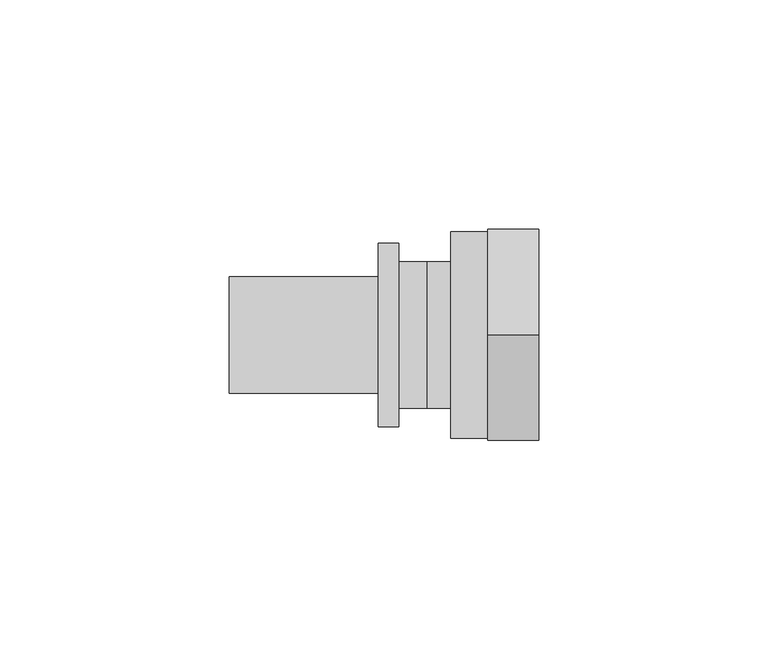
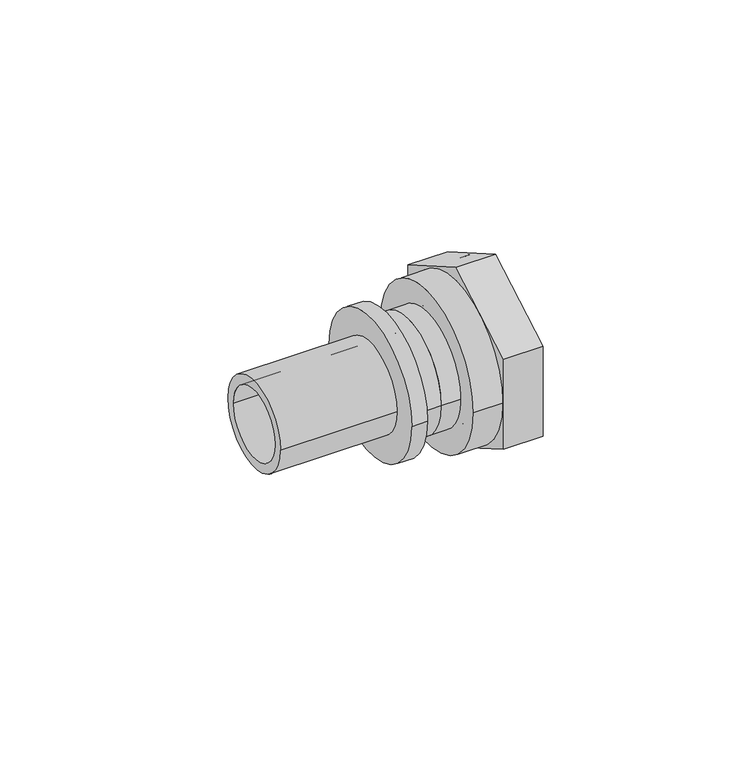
"""IFC4 building model written with IfcOpenShell, lengths in millimetres: pipe fitting geometry, REHAU_RAUTITAN_Adaptor_RX+_union nut : REHAU_RAUTITAN_Adaptor_RX+_union nut."""

from ifc_helpers import new_model, si_unit, point, frame, origin, origin_2d, place, context, project, spatial, polyline, circle_curve, trimmed, segment, composite_curve, outline, extrude, source, transform, mapped, element, save
from ifc_brep_helpers import plane_surface, cylinder_surface, revolved_surface, advanced_brep


def pipe_fitting_fe676349(model_context):
    return source(origin(), model_context, "Body", "SolidModel", [
        advanced_brep(
        [(0.0, 16.0, 0.0), (0.0, -16.0, 0.0), (-6.1, -16.0, 0.0), (-6.1, 16.0, 0.0), (-43.0, 10.0, 0.0), (-43.0, -10.0, 0.0), (0.0, -10.0, 0.0), (0.0, 10.0, 0.0), (-10.5, 12.725, 0.0), (-10.5, -12.725, 0.0), (-43.0, -12.725, 0.0), (-43.0, 12.725, 0.0), (-6.1, 20.0, 0.0), (-6.1, -20.0, 0.0), (-10.5, -20.0, 0.0), (-10.5, 20.0, 0.0)],
        [
            (0, 1, circle_curve(frame((0.0, 0.0, 0.0), z_axis=(-1.0, 0.0, 0.0), x_axis=(0.0, -1.0, 0.0)), 16.0)),
            (1, 2),
            (2, 3, circle_curve(frame((-6.1, 0.0, 0.0), z_axis=(1.0, 0.0, 0.0), x_axis=(0.0, -1.0, 0.0)), 16.0)),
            (3, 0),
            (4, 5, circle_curve(frame((-43.0, 0.0, 0.0), z_axis=(-1.0, 0.0, 0.0), x_axis=(0.0, -1.0, 0.0)), 10.0)),
            (5, 6),
            (6, 7, circle_curve(frame((0.0, 0.0, 0.0), z_axis=(1.0, 0.0, 0.0), x_axis=(0.0, -1.0, 0.0)), 10.0)),
            (7, 4),
            (8, 9, circle_curve(frame((-10.5, 0.0, 0.0), z_axis=(-1.0, 0.0, 0.0), x_axis=(0.0, -1.0, 0.0)), 12.725)),
            (9, 10),
            (10, 11, circle_curve(frame((-43.0, 0.0, 0.0), z_axis=(1.0, 0.0, 0.0), x_axis=(0.0, -1.0, 0.0)), 12.725)),
            (11, 8),
            (12, 13, circle_curve(frame((-6.1, 0.0, 0.0), z_axis=(-1.0, 0.0, 0.0), x_axis=(0.0, -1.0, 0.0)), 20.0)),
            (13, 14),
            (14, 15, circle_curve(frame((-10.5, 0.0, 0.0), z_axis=(1.0, 0.0, 0.0), x_axis=(0.0, -1.0, 0.0)), 20.0)),
            (15, 12),
            (1, 0, circle_curve(frame((0.0, 0.0, 0.0), z_axis=(-1.0, 0.0, 0.0), x_axis=(0.0, 1.0, 0.0)), 16.0)),
            (3, 2, circle_curve(frame((-6.1, 0.0, 0.0), z_axis=(1.0, 0.0, 0.0), x_axis=(0.0, 1.0, 0.0)), 16.0)),
            (6, 7, circle_curve(frame((0.0, 0.0, 0.0), z_axis=(-1.0, 0.0, 0.0), x_axis=(0.0, 1.0, 0.0)), 10.0)),
            (5, 4, circle_curve(frame((-43.0, 0.0, 0.0), z_axis=(-1.0, 0.0, 0.0), x_axis=(0.0, 1.0, 0.0)), 10.0)),
            (10, 11, circle_curve(frame((-43.0, 0.0, 0.0), z_axis=(-1.0, 0.0, 0.0), x_axis=(0.0, 1.0, 0.0)), 12.725)),
            (9, 8, circle_curve(frame((-10.5, 0.0, 0.0), z_axis=(-1.0, 0.0, 0.0), x_axis=(0.0, 1.0, 0.0)), 12.725)),
            (14, 15, circle_curve(frame((-10.5, 0.0, 0.0), z_axis=(-1.0, 0.0, 0.0), x_axis=(0.0, 1.0, 0.0)), 20.0)),
            (13, 12, circle_curve(frame((-6.1, 0.0, 0.0), z_axis=(-1.0, 0.0, 0.0), x_axis=(0.0, 1.0, 0.0)), 20.0)),
        ],
        [
            cylinder_surface(frame((0.0, 0.0, 0.0), z_axis=(1.0, 0.0, 0.0), x_axis=(0.0, -1.0, 0.0)), 16.0),
            revolved_surface(polyline([(0.0, -10.0, 0.0), (-43.0, -10.0, 0.0)]), (0.0, 0.0, 0.0), (1.0, 0.0, 0.0)),
            cylinder_surface(frame((0.0, 0.0, 0.0), z_axis=(1.0, 0.0, 0.0), x_axis=(0.0, -1.0, 0.0)), 12.725),
            cylinder_surface(frame((0.0, 0.0, 0.0), z_axis=(1.0, 0.0, 0.0), x_axis=(0.0, -1.0, 0.0)), 20.0),
            cylinder_surface(frame((0.0, 0.0, 0.0), z_axis=(1.0, 0.0, 0.0), x_axis=(0.0, 1.0, 0.0)), 16.0),
            plane_surface(frame((0.0, 0.0, 0.0), z_axis=(1.0, 0.0, 0.0), x_axis=(0.0, 1.0, 0.0))),
            revolved_surface(polyline([(0.0, 10.0, 0.0), (-43.0, 10.0, 0.0)]), (0.0, 0.0, 0.0), (1.0, 0.0, 0.0)),
            plane_surface(frame((-43.0, 0.0, 0.0), z_axis=(-1.0, 0.0, 0.0), x_axis=(0.0, 1.0, 0.0))),
            cylinder_surface(frame((0.0, 0.0, 0.0), z_axis=(1.0, 0.0, 0.0), x_axis=(0.0, 1.0, 0.0)), 12.725),
            plane_surface(frame((-10.5, 0.0, 0.0), z_axis=(-1.0, 0.0, 0.0), x_axis=(0.0, 1.0, 0.0))),
            cylinder_surface(frame((0.0, 0.0, 0.0), z_axis=(1.0, 0.0, 0.0), x_axis=(0.0, 1.0, 0.0)), 20.0),
            plane_surface(frame((-6.1, 0.0, 0.0), z_axis=(1.0, 0.0, 0.0), x_axis=(0.0, 1.0, 0.0))),
        ],
        [
            (0, [[1, 2, 3, 4]]),
            (1, [[5, 6, 7, 8]]),
            (2, [[9, 10, 11, 12]]),
            (3, [[13, 14, 15, 16]]),
            (4, [[17, -4, 18, -2]]),
            (5, [[-17, -1], [19, -7]]),
            (6, [[20, -8, -19, -6]]),
            (7, [[21, -11], [-20, -5]]),
            (8, [[22, -12, -21, -10]]),
            (9, [[23, -15], [-22, -9]]),
            (10, [[24, -16, -23, -14]]),
            (11, [[-24, -13], [-18, -3]]),
        ],
    ),
        advanced_brep(
        [(9.0, 16.0, 0.0), (9.0, -16.0, 0.0), (0.0, -16.0, 0.0), (0.0, 16.0, 0.0), (12.0, 18.0, 0.0), (12.0, -18.0, 0.0), (9.0, -18.0, 0.0), (9.0, 18.0, 0.0), (1.4730817, 10.0, 0.0), (1.4730817, -10.0, 0.0), (12.0, -10.0, 0.0), (12.0, 10.0, 0.0), (0.0, 7.8264556, 0.0), (0.0, -7.8264556, 0.0), (1.4730817, -7.8264556, 0.0), (1.4730817, 7.8264556, 0.0)],
        [
            (0, 1, circle_curve(frame((9.0, 0.0, 0.0), z_axis=(-1.0, 0.0, 0.0), x_axis=(0.0, -1.0, 0.0)), 16.0)),
            (1, 2),
            (2, 3, circle_curve(frame((0.0, 0.0, 0.0), z_axis=(1.0, 0.0, 0.0), x_axis=(0.0, -1.0, 0.0)), 16.0)),
            (3, 0),
            (4, 5, circle_curve(frame((12.0, 0.0, 0.0), z_axis=(-1.0, 0.0, 0.0), x_axis=(0.0, -1.0, 0.0)), 18.0)),
            (5, 6),
            (6, 7, circle_curve(frame((9.0, 0.0, 0.0), z_axis=(1.0, 0.0, 0.0), x_axis=(0.0, -1.0, 0.0)), 18.0)),
            (7, 4),
            (8, 9, circle_curve(frame((1.4730817, 0.0, 0.0), z_axis=(-1.0, 0.0, 0.0), x_axis=(0.0, -1.0, 0.0)), 10.0)),
            (9, 10),
            (10, 11, circle_curve(frame((12.0, 0.0, 0.0), z_axis=(1.0, 0.0, 0.0), x_axis=(0.0, -1.0, 0.0)), 10.0)),
            (11, 8),
            (2, 3, circle_curve(frame((0.0, 0.0, 0.0), z_axis=(-1.0, 0.0, 0.0), x_axis=(0.0, 1.0, 0.0)), 16.0)),
            (12, 13, circle_curve(frame((0.0, 0.0, 0.0), z_axis=(1.0, 0.0, 0.0), x_axis=(0.0, 1.0, 0.0)), 7.8264556)),
            (13, 12, circle_curve(frame((0.0, 0.0, 0.0), z_axis=(1.0, 0.0, 0.0), x_axis=(0.0, -1.0, 0.0)), 7.8264556)),
            (1, 0, circle_curve(frame((9.0, 0.0, 0.0), z_axis=(-1.0, 0.0, 0.0), x_axis=(0.0, 1.0, 0.0)), 16.0)),
            (6, 7, circle_curve(frame((9.0, 0.0, 0.0), z_axis=(-1.0, 0.0, 0.0), x_axis=(0.0, 1.0, 0.0)), 18.0)),
            (5, 4, circle_curve(frame((12.0, 0.0, 0.0), z_axis=(-1.0, 0.0, 0.0), x_axis=(0.0, 1.0, 0.0)), 18.0)),
            (10, 11, circle_curve(frame((12.0, 0.0, 0.0), z_axis=(-1.0, 0.0, 0.0), x_axis=(0.0, 1.0, 0.0)), 10.0)),
            (9, 8, circle_curve(frame((1.4730817, 0.0, 0.0), z_axis=(-1.0, 0.0, 0.0), x_axis=(0.0, 1.0, 0.0)), 10.0)),
            (13, 14),
            (14, 15, circle_curve(frame((1.4730817, 0.0, 0.0), z_axis=(1.0, 0.0, 0.0), x_axis=(0.0, -1.0, 0.0)), 7.8264556)),
            (15, 12),
            (14, 15, circle_curve(frame((1.4730817, 0.0, 0.0), z_axis=(-1.0, 0.0, 0.0), x_axis=(0.0, 1.0, 0.0)), 7.8264556)),
        ],
        [
            cylinder_surface(frame((0.0, 0.0, 0.0), z_axis=(1.0, 0.0, 0.0), x_axis=(0.0, -1.0, 0.0)), 16.0),
            cylinder_surface(frame((0.0, 0.0, 0.0), z_axis=(1.0, 0.0, 0.0), x_axis=(0.0, -1.0, 0.0)), 18.0),
            revolved_surface(polyline([(12.0, -10.0, 0.0), (1.4730817, -10.0, 0.0)]), (0.0, 0.0, 0.0), (1.0, 0.0, 0.0)),
            plane_surface(frame((0.0, 0.0, 0.0), z_axis=(-1.0, 0.0, 0.0), x_axis=(0.0, 1.0, 0.0))),
            cylinder_surface(frame((0.0, 0.0, 0.0), z_axis=(1.0, 0.0, 0.0), x_axis=(0.0, 1.0, 0.0)), 16.0),
            plane_surface(frame((9.0, 0.0, 0.0), z_axis=(-1.0, 0.0, 0.0), x_axis=(0.0, 1.0, 0.0))),
            cylinder_surface(frame((0.0, 0.0, 0.0), z_axis=(1.0, 0.0, 0.0), x_axis=(0.0, 1.0, 0.0)), 18.0),
            plane_surface(frame((12.0, 0.0, 0.0), z_axis=(1.0, 0.0, 0.0), x_axis=(0.0, 1.0, 0.0))),
            revolved_surface(polyline([(12.0, 10.0, 0.0), (1.4730817, 10.0, 0.0)]), (0.0, 0.0, 0.0), (1.0, 0.0, 0.0)),
            revolved_surface(polyline([(1.4730817, -7.8264556, 0.0), (0.0, -7.8264556, 0.0)]), (0.0, 0.0, 0.0), (1.0, 0.0, 0.0)),
            plane_surface(frame((1.4730817, 0.0, 0.0), z_axis=(1.0, 0.0, 0.0), x_axis=(0.0, 1.0, 0.0))),
            revolved_surface(polyline([(1.4730817, 7.8264556, 0.0), (0.0, 7.8264556, 0.0)]), (0.0, 0.0, 0.0), (1.0, 0.0, 0.0)),
        ],
        [
            (0, [[1, 2, 3, 4]]),
            (1, [[5, 6, 7, 8]]),
            (2, [[9, 10, 11, 12]]),
            (3, [[13, -3], [14, 15]]),
            (4, [[16, -4, -13, -2]]),
            (5, [[17, -7], [-16, -1]]),
            (6, [[18, -8, -17, -6]]),
            (7, [[-18, -5], [19, -11]]),
            (8, [[20, -12, -19, -10]]),
            (9, [[-15, 21, 22, 23]]),
            (10, [[-20, -9], [24, -22]]),
            (11, [[-14, -23, -24, -21]]),
        ],
    ),
        advanced_brep(
        [(24.4, 22.5, 0.0), (24.4, -22.5, 0.0), (5.3, -22.5, 0.0), (5.3, 22.5, 0.0), (9.0, 18.0, 0.0), (9.0, -18.0, 0.0), (24.4, -18.0, 0.0), (24.4, 18.0, 0.0), (5.3, 14.3, 0.0), (5.3, -14.3, 0.0), (9.0, -14.3, 0.0), (9.0, 14.3, 0.0)],
        [
            (0, 1, circle_curve(frame((24.4, 0.0, 0.0), z_axis=(-1.0, 0.0, 0.0), x_axis=(0.0, -1.0, 0.0)), 22.5)),
            (1, 2),
            (2, 3, circle_curve(frame((5.3, 0.0, 0.0), z_axis=(1.0, 0.0, 0.0), x_axis=(0.0, -1.0, 0.0)), 22.5)),
            (3, 0),
            (4, 5, circle_curve(frame((9.0, 0.0, 0.0), z_axis=(-1.0, 0.0, 0.0), x_axis=(0.0, -1.0, 0.0)), 18.0)),
            (5, 6),
            (6, 7, circle_curve(frame((24.4, 0.0, 0.0), z_axis=(1.0, 0.0, 0.0), x_axis=(0.0, -1.0, 0.0)), 18.0)),
            (7, 4),
            (8, 9, circle_curve(frame((5.3, 0.0, 0.0), z_axis=(-1.0, 0.0, 0.0), x_axis=(0.0, -1.0, 0.0)), 14.3)),
            (9, 10),
            (10, 11, circle_curve(frame((9.0, 0.0, 0.0), z_axis=(1.0, 0.0, 0.0), x_axis=(0.0, -1.0, 0.0)), 14.3)),
            (11, 8),
            (1, 0, circle_curve(frame((24.4, 0.0, 0.0), z_axis=(-1.0, 0.0, 0.0), x_axis=(0.0, 1.0, 0.0)), 22.5)),
            (3, 2, circle_curve(frame((5.3, 0.0, 0.0), z_axis=(1.0, 0.0, 0.0), x_axis=(0.0, 1.0, 0.0)), 22.5)),
            (6, 7, circle_curve(frame((24.4, 0.0, 0.0), z_axis=(-1.0, 0.0, 0.0), x_axis=(0.0, 1.0, 0.0)), 18.0)),
            (5, 4, circle_curve(frame((9.0, 0.0, 0.0), z_axis=(-1.0, 0.0, 0.0), x_axis=(0.0, 1.0, 0.0)), 18.0)),
            (10, 11, circle_curve(frame((9.0, 0.0, 0.0), z_axis=(-1.0, 0.0, 0.0), x_axis=(0.0, 1.0, 0.0)), 14.3)),
            (9, 8, circle_curve(frame((5.3, 0.0, 0.0), z_axis=(-1.0, 0.0, 0.0), x_axis=(0.0, 1.0, 0.0)), 14.3)),
        ],
        [
            cylinder_surface(frame((0.0, 0.0, 0.0), z_axis=(1.0, 0.0, 0.0), x_axis=(0.0, -1.0, 0.0)), 22.5),
            revolved_surface(polyline([(24.4, -18.0, 0.0), (9.0, -18.0, 0.0)]), (0.0, 0.0, 0.0), (1.0, 0.0, 0.0)),
            revolved_surface(polyline([(9.0, -14.3, 0.0), (5.3, -14.3, 0.0)]), (0.0, 0.0, 0.0), (1.0, 0.0, 0.0)),
            cylinder_surface(frame((0.0, 0.0, 0.0), z_axis=(1.0, 0.0, 0.0), x_axis=(0.0, 1.0, 0.0)), 22.5),
            plane_surface(frame((24.4, 0.0, 0.0), z_axis=(1.0, 0.0, 0.0), x_axis=(0.0, 1.0, 0.0))),
            revolved_surface(polyline([(24.4, 18.0, 0.0), (9.0, 18.0, 0.0)]), (0.0, 0.0, 0.0), (1.0, 0.0, 0.0)),
            plane_surface(frame((9.0, 0.0, 0.0), z_axis=(1.0, 0.0, 0.0), x_axis=(0.0, 1.0, 0.0))),
            revolved_surface(polyline([(9.0, 14.3, 0.0), (5.3, 14.3, 0.0)]), (0.0, 0.0, 0.0), (1.0, 0.0, 0.0)),
            plane_surface(frame((5.3, 0.0, 0.0), z_axis=(-1.0, 0.0, 0.0), x_axis=(0.0, 1.0, 0.0))),
        ],
        [
            (0, [[1, 2, 3, 4]]),
            (1, [[5, 6, 7, 8]]),
            (2, [[9, 10, 11, 12]]),
            (3, [[13, -4, 14, -2]]),
            (4, [[-13, -1], [15, -7]]),
            (5, [[16, -8, -15, -6]]),
            (6, [[-16, -5], [17, -11]]),
            (7, [[18, -12, -17, -10]]),
            (8, [[-14, -3], [-18, -9]]),
        ],
    ),
        extrude(outline(polyline([(0.0, -26.5581124), (-23.0, -13.2790562), (-23.0, 13.2790562), (0.0, 26.5581124), (23.0, 13.2790562), (23.0, -13.2790562), (0.0, -26.5581124)]), holes=[composite_curve([segment(trimmed(circle_curve(origin_2d(), 22.5), [point((-22.5, 0.0))], [point((22.5, 0.0))], True, "CARTESIAN"), True, "CONTINUOUS"), segment(trimmed(circle_curve(origin_2d(), 22.5), [point((22.5, 0.0))], [point((-22.5, 0.0))], True, "CARTESIAN"), True, "CONTINUOUS")], self_intersect=False)]), frame((13.3, 0.0, 0.0), z_axis=(1.0, 0.0, 0.0), x_axis=(0.0, 1.0, 0.0)), (0.0, 0.0, 1.0), 11.1),
    ])


if __name__ == "__main__":
    model = new_model("IFC4")
    model_context = context("Model", 3, world=origin())
    ifc_project = project(units=[si_unit("LENGTHUNIT", "METRE", prefix="MILLI")], contexts=[model_context])
    site = spatial("IfcSite", under=ifc_project)
    building = spatial("IfcBuilding", under=site)
    placement = place(None, origin())
    pipe_fitting_shape = pipe_fitting_fe676349(model_context)
    element("IfcPipeFitting", 1, ObjectType="REHAU_RAUTITAN_Adaptor_RX+_union nut : REHAU_RAUTITAN_Adaptor_RX+_union nut", at=placement, inside=building, context=model_context, shape_type="MappedRepresentation", body=[
        mapped(pipe_fitting_shape, transform((0.0, 0.0, 0.0), x_axis=(1.0, 0.0, 0.0), y_axis=(0.0, 1.0, 0.0), z_axis=(0.0, 0.0, 1.0))),
    ])
    save(model, "model.ifc")
